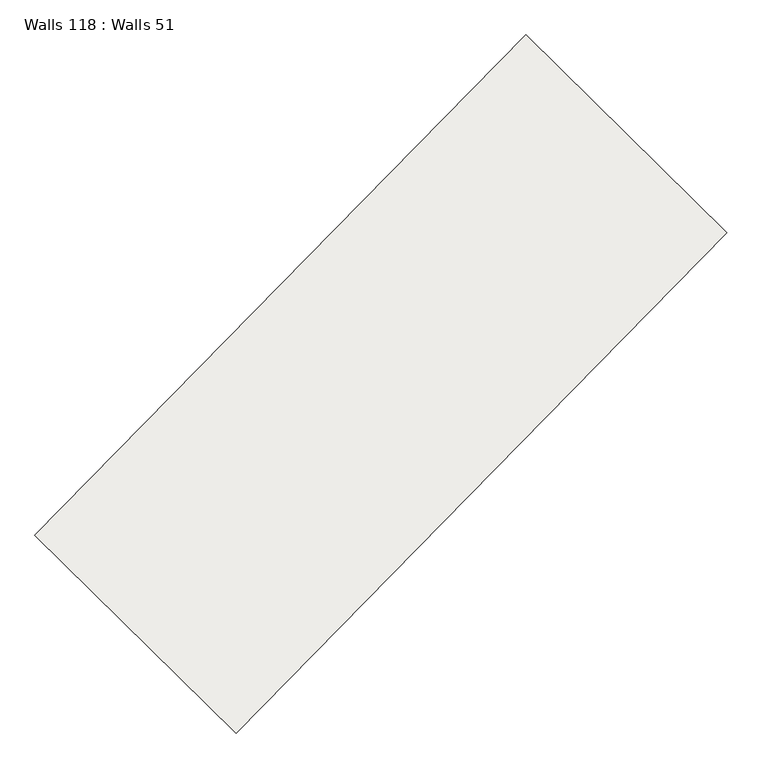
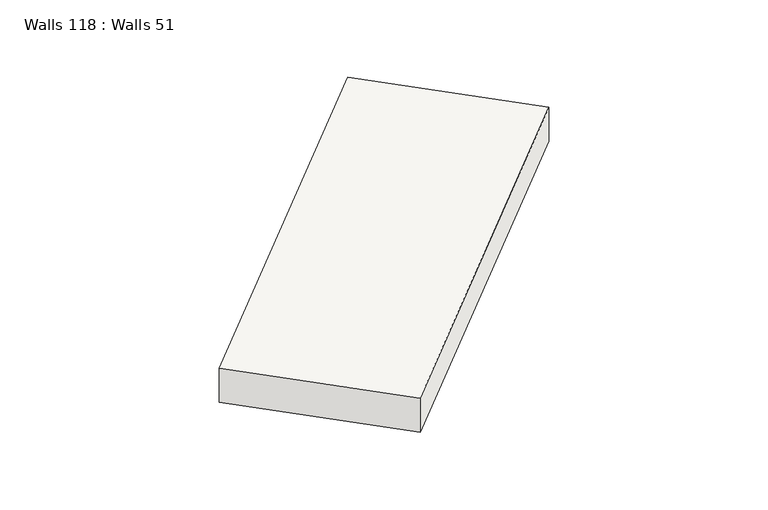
"""IFC4 building model written with IfcOpenShell, lengths in millimetres: slab geometry, Walls 118 : Walls 51."""

from ifc_helpers import new_model, si_unit, frame, origin, place, context, project, spatial, polyline, outline, extrude, source, transform, mapped, element, save


def walls_118_walls_51_f752152d(model_context):
    return source(origin(), model_context, "Body", "SweptSolid", [
        extrude(outline(polyline([(-350.0, 0.0), (350.0, 0.0), (260.0, -8700.0000009), (-440.0, -8700.0000009), (-350.0, 0.0)])), frame((-73144.856486, -233738.1634357, 637380.0), z_axis=(-0.7137361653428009, 0.7004146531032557, 0.0), x_axis=(0.0, 0.0, 1.0)), (0.0, 0.0, 1.0), 3499.999995),
    ])


if __name__ == "__main__":
    model = new_model("IFC4")
    model_context = context("Model", 3, world=origin())
    ifc_project = project(units=[si_unit("LENGTHUNIT", "METRE", prefix="MILLI")], contexts=[model_context])
    site = spatial("IfcSite", under=ifc_project)
    building = spatial("IfcBuilding", under=site)
    placement = place(None, origin())
    walls_118_walls_51_shape = walls_118_walls_51_f752152d(model_context)
    element("IfcSlab", 1, ObjectType="Walls 118 : Walls 51", at=placement, inside=building, context=model_context, shape_type="MappedRepresentation", body=[
        mapped(walls_118_walls_51_shape, transform((0.0, 0.0, 0.0), x_axis=(1.0, 0.0, 0.0), y_axis=(0.0, 1.0, 0.0), z_axis=(0.0, 0.0, 1.0))),
    ])
    save(model, "model.ifc")
